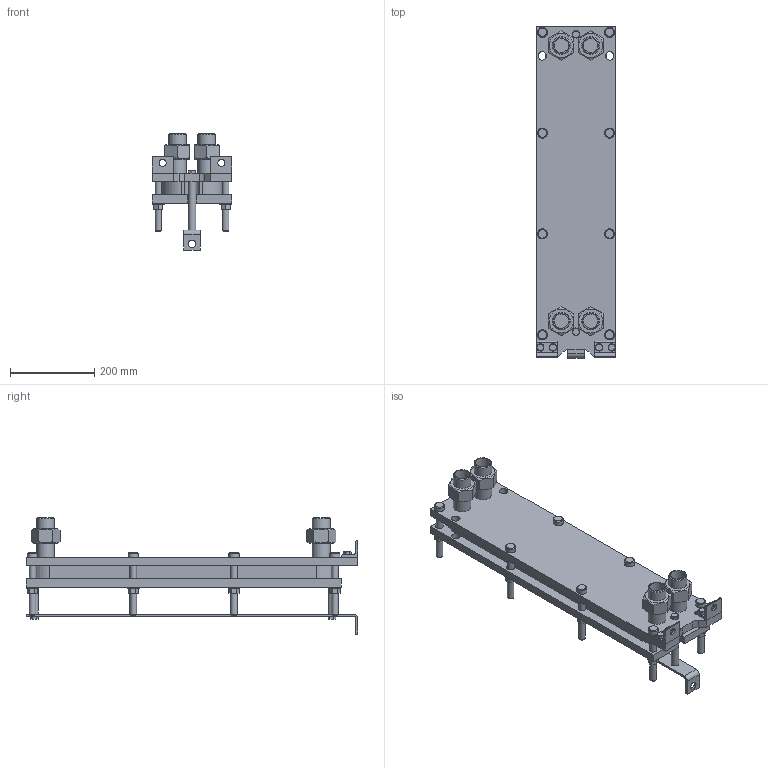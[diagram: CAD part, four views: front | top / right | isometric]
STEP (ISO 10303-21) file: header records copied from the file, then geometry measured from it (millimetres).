
FILE_DESCRIPTION(/* description */ (''),/* implementation_level */ '2;1');
FILE_NAME(/* name */ 'C:\Users\zhuro\Desktop\ENCO\TO\ЭН-008\ЭН-0,5-008-10-1.stp',/* time_stamp */ '2022-06-06T10:45:46+03:00',/* author */ ('zhuro'),/* organization */ (''),/* preprocessor_version */ 'ST-DEVELOPER v18.1',/* originating_system */ 'Autodesk Inventor 2022',/* authorisation */ '');
FILE_SCHEMA (('AUTOMOTIVE_DESIGN { 1 0 10303 214 3 1 1 }'));
Length unit declared in the file: millimetre
Products named in the file (1): ЭН-0,5-008-10-1
Bounding box: 190 x 790 x 277 mm (x, y, z)
Volume: 9751672.9 mm3; surface area: 1260230.1 mm2
Topology: 40 solids, 40 shells, 428 faces, 924 edges, 606 vertices
Faces by surface type: plane 273, cylinder 109, cone 40, torus 6
Full cylindrical faces by diameter (mm): 12 x6, 14 x2, 16 x20, 17 x8, 18 x19, 20 x5, 24 x8, 28 x8, 34.3 x8, 42.3 x8
Entity records: 15843 total; most frequent: CARTESIAN_POINT 5991, DIRECTION 1984, ORIENTED_EDGE 1848, EDGE_CURVE 924, AXIS2_PLACEMENT_3D 715, VERTEX_POINT 606, LINE 554, VECTOR 554
